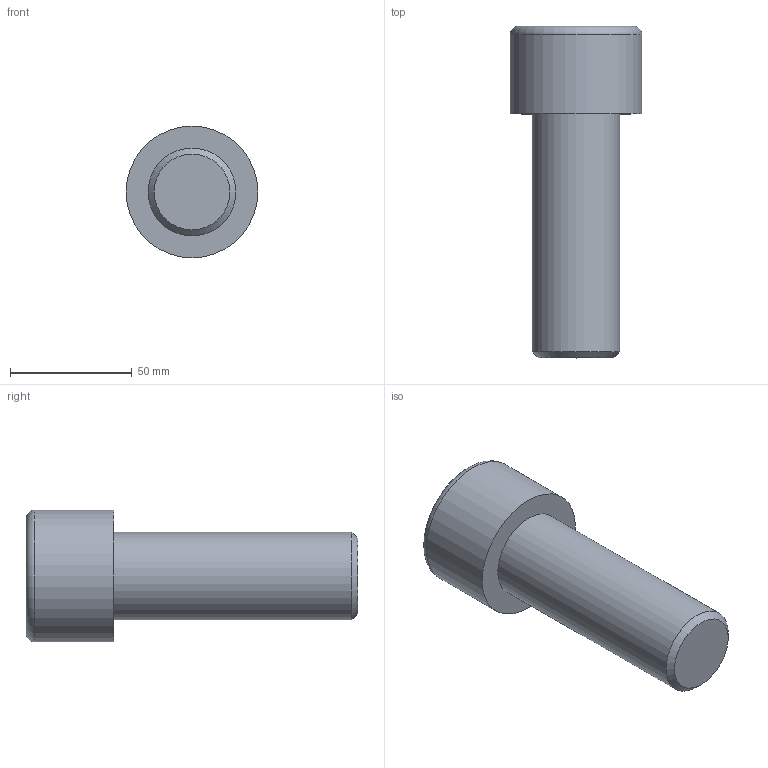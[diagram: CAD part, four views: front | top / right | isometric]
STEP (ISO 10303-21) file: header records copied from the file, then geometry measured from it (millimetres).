
FILE_DESCRIPTION(/* description */ (''),/* implementation_level */ '2;1');
FILE_NAME(/* name */ 'C:\Users\D\Documents\Inventor\各種小物\JIS\JIS B 1176 六角穴付きボルト\M36x100.stp',/* time_stamp */ '2022-05-09T19:04:08+09:00',/* author */ ('D'),/* organization */ (''),/* preprocessor_version */ 'ST-DEVELOPER v18',/* originating_system */ 'Autodesk Inventor 2020',/* authorisation */ '');
FILE_SCHEMA (('AUTOMOTIVE_DESIGN { 1 0 10303 214 3 1 1 }'));
Length unit declared in the file: millimetre
Products named in the file (1): M1.6x2.5
Bounding box: 54 x 136 x 54 mm (x, y, z)
Volume: 169231 mm3; surface area: 23508.3 mm2
Topology: 1 solids, 1 shells, 14 faces, 33 edges, 22 vertices
Faces by surface type: plane 9, cone 2, cylinder 2, torus 1
Full cylindrical faces by diameter (mm): 36 x1, 54 x1
Entity records: 435 total; most frequent: CARTESIAN_POINT 83, ORIENTED_EDGE 64, DIRECTION 64, EDGE_CURVE 32, AXIS2_PLACEMENT_3D 24, VERTEX_POINT 22, EDGE_LOOP 16, LINE 16
